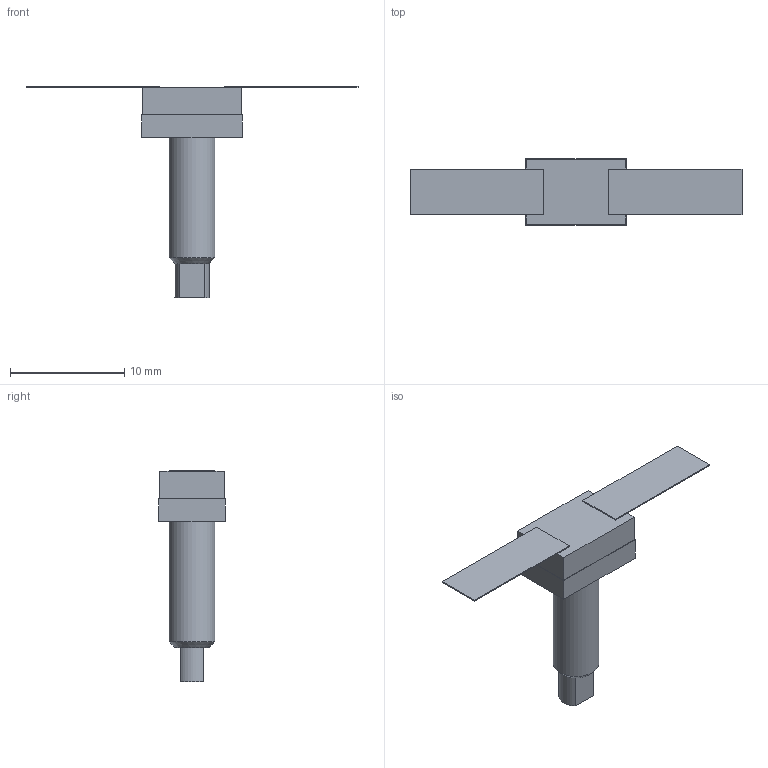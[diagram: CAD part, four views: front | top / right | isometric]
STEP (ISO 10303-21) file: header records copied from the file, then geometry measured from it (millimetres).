
FILE_DESCRIPTION(('STEP AP203'), '1');
FILE_NAME('Ð1-3-10', '', ('UNSPECIFIED'), ('UNSPECIFIED'), 'ASCON STEP Converter 1.6', 'ASCON Math Kernel', '');
FILE_SCHEMA(('CONFIG_CONTROL_DESIGN'));
Length unit declared in the file: millimetre
Bounding box: 29 x 5.8 x 18.5 mm (x, y, z)
Volume: 383.4 mm3; surface area: 569 mm2
Topology: 1 solids, 2 shells, 51 faces, 126 edges, 81 vertices
Faces by surface type: plane 43, cylinder 7, cone 1
Full cylindrical faces by diameter (mm): 4 x1
Entity records: 1929 total; most frequent: CARTESIAN_POINT 257, ORIENTED_EDGE 248, DIRECTION 245, EDGE_CURVE 124, LINE 107, VECTOR 107, VERTEX_POINT 81, AXIS2_PLACEMENT_3D 69
